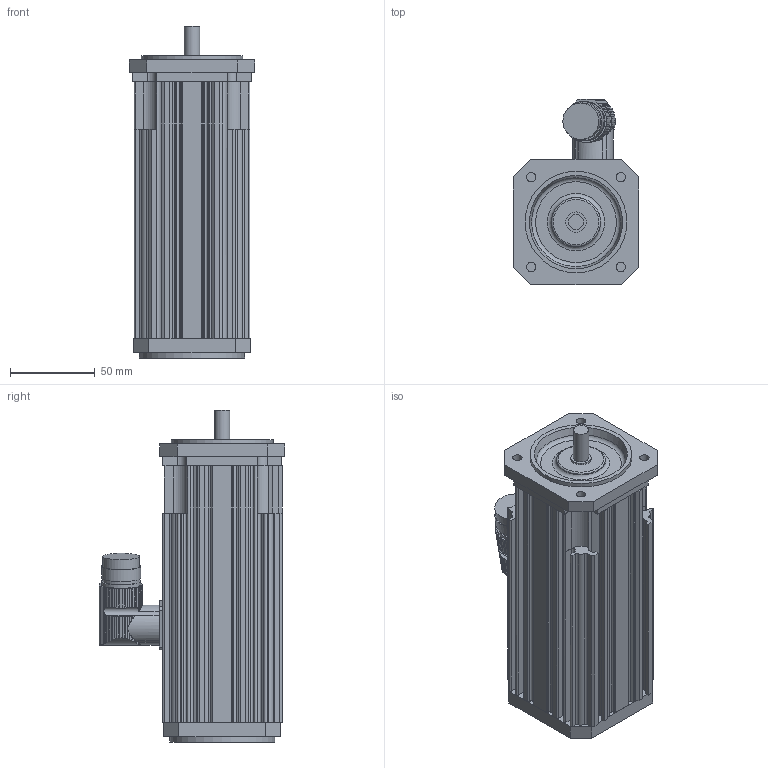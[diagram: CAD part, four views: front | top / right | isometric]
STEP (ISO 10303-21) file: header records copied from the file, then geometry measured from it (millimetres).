
FILE_DESCRIPTION(/* description */ (''),/* implementation_level */ '2;1');
FILE_NAME(/* name */ 'KSA244_MC',/* time_stamp */ '2009-02-26T12:56:33+01:00',/* author */ (''),/* organization */ (''),/* preprocessor_version */ 'ST-DEVELOPER v8',/* originating_system */ 'UNIGRAPHICS SOLUTIONS - UNIGRAPHICS 18.0',/* authorisation */ '');
FILE_SCHEMA (('AUTOMOTIVE_DESIGN { 1 2 10303 214 0 1 1 1 }'));
Length unit declared in the file: millimetre
Products named in the file (4): Lagersch2AS_0; Winkelflanschdose_0; Lagersch2BS_0; KSA244_MC_0
Assembly tree (3 placements, depth 2):
  KSA244_MC_0
    Lagersch2BS_0
    Winkelflanschdose_0
    Lagersch2AS_0
Bounding box: 74 x 109.69 x 196 mm (x, y, z)
Volume: 330338.4 mm3; surface area: 128146.9 mm2
Topology: 4 solids, 4 shells, 474 faces, 1316 edges, 852 vertices
Faces by surface type: cylinder 257, plane 164, torus 16, bspline 16, sphere 16, cone 5
Full cylindrical faces by diameter (mm): 5.5 x4, 9 x1, 12 x1, 16 x1, 20 x1, 21 x1, 21.5 x1, 23 x2, 60 x2, 61 x2, 62 x1
Entity records: 16096 total; most frequent: CARTESIAN_POINT 3733, ORIENTED_EDGE 2530, DIRECTION 2476, EDGE_CURVE 1265, AXIS2_PLACEMENT_3D 933, VERTEX_POINT 842, LINE 610, VECTOR 610
